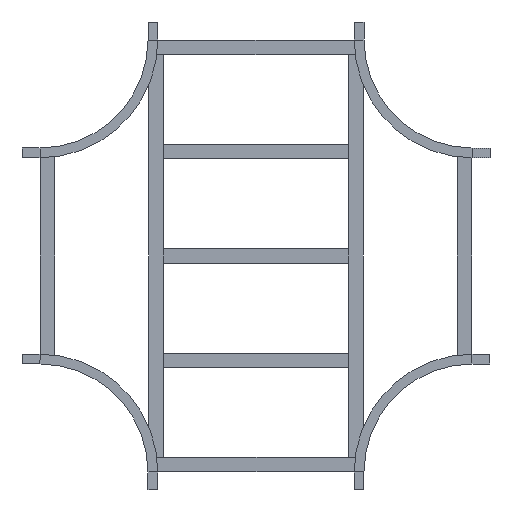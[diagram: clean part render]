
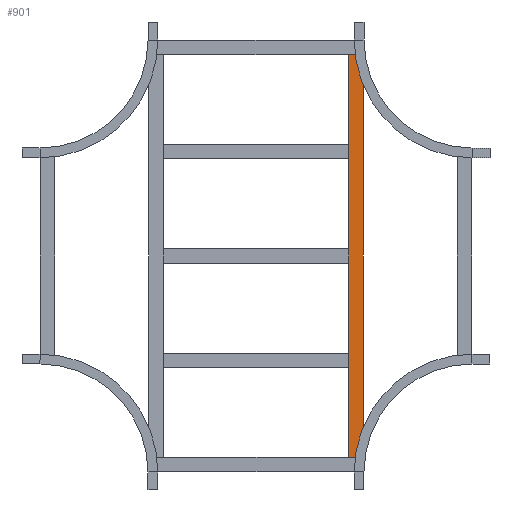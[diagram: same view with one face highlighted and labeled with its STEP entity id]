
A CAD part, front view. The second image highlights one B-rep face of the part: STEP entity #901.
In plain terms, the highlighted planar face has unit normal (0, -1, 0).
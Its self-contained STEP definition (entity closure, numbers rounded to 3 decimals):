
#14 = VERTEX_POINT ( 'NONE', #1319 ) ;
#79 = LINE ( 'NONE', #200, #1373 ) ;
#88 = DIRECTION ( 'NONE',  ( -1., 0., 0. ) ) ;
#100 = CARTESIAN_POINT ( 'NONE',  ( -559.5, 0., 20.25 ) ) ;
#167 = DIRECTION ( 'NONE',  ( 0., 1., 0. ) ) ;
#200 = CARTESIAN_POINT ( 'NONE',  ( -559.5, 0., 20.25 ) ) ;
#244 = ORIENTED_EDGE ( 'NONE', *, *, #765, .F. ) ;
#274 = EDGE_LOOP ( 'NONE', ( #792, #244, #1209, #957 ) ) ;
#279 = CARTESIAN_POINT ( 'NONE',  ( 559.5, 0., 20.25 ) ) ;
#320 = VERTEX_POINT ( 'NONE', #100 ) ;
#344 = CARTESIAN_POINT ( 'NONE',  ( -559.5, 0., -20.25 ) ) ;
#422 = EDGE_CURVE ( 'NONE', #320, #583, #79, .T. ) ;
#425 = EDGE_CURVE ( 'NONE', #14, #320, #524, .T. ) ;
#432 = VECTOR ( 'NONE', #1220, 1000. ) ;
#464 = DIRECTION ( 'NONE',  ( 0., 0., -1. ) ) ;
#512 = DIRECTION ( 'NONE',  ( 0., 0., 1. ) ) ;
#523 = VECTOR ( 'NONE', #464, 1000. ) ;
#524 = LINE ( 'NONE', #544, #719 ) ;
#544 = CARTESIAN_POINT ( 'NONE',  ( 559.5, 0., 20.25 ) ) ;
#583 = VERTEX_POINT ( 'NONE', #344 ) ;
#671 = LINE ( 'NONE', #1126, #523 ) ;
#690 = CARTESIAN_POINT ( 'NONE',  ( 559.5, 0., -20.25 ) ) ;
#719 = VECTOR ( 'NONE', #88, 1000. ) ;
#765 = EDGE_CURVE ( 'NONE', #780, #583, #1351, .T. ) ;
#767 = EDGE_CURVE ( 'NONE', #14, #780, #671, .T. ) ;
#779 = CARTESIAN_POINT ( 'NONE',  ( 559.5, 0., -20.25 ) ) ;
#780 = VERTEX_POINT ( 'NONE', #779 ) ;
#792 = ORIENTED_EDGE ( 'NONE', *, *, #422, .T. ) ;
#880 = AXIS2_PLACEMENT_3D ( 'NONE', #279, #167, #512 ) ;
#901 = ADVANCED_FACE ( 'NONE', ( #1028 ), #1165, .F. ) ;
#955 = DIRECTION ( 'NONE',  ( 0., 0., -1. ) ) ;
#957 = ORIENTED_EDGE ( 'NONE', *, *, #425, .T. ) ;
#1028 = FACE_OUTER_BOUND ( 'NONE', #274, .T. ) ;
#1126 = CARTESIAN_POINT ( 'NONE',  ( 559.5, 0., 20.25 ) ) ;
#1165 = PLANE ( 'NONE',  #880 ) ;
#1209 = ORIENTED_EDGE ( 'NONE', *, *, #767, .F. ) ;
#1220 = DIRECTION ( 'NONE',  ( -1., 0., 0. ) ) ;
#1319 = CARTESIAN_POINT ( 'NONE',  ( 559.5, 0., 20.25 ) ) ;
#1351 = LINE ( 'NONE', #690, #432 ) ;
#1373 = VECTOR ( 'NONE', #955, 1000. ) ;
